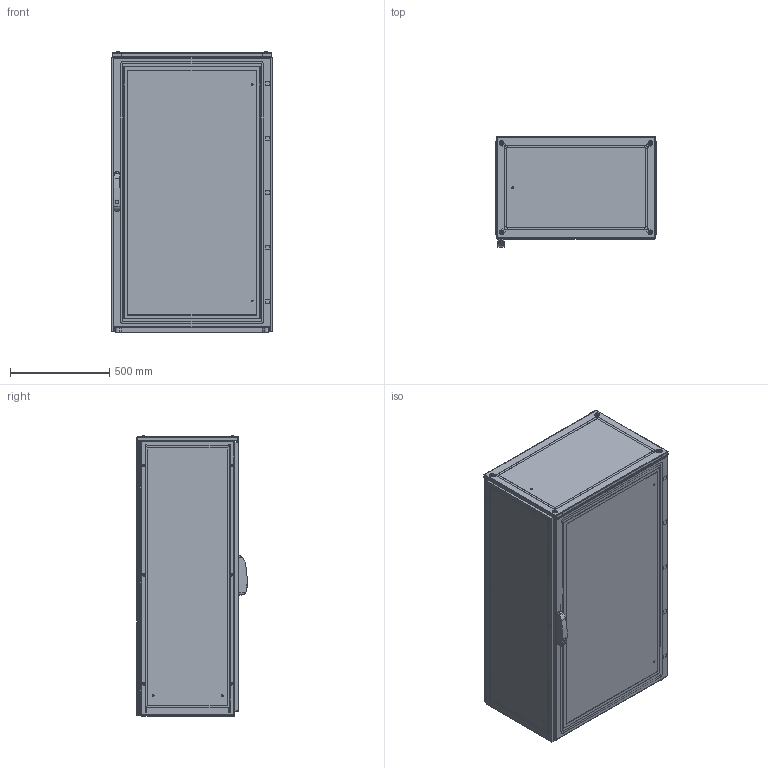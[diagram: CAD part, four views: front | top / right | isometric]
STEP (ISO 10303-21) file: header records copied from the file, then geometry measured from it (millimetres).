
FILE_DESCRIPTION(/* description */ ('STEP AP214'),/* implementation_level */ '2;1');
FILE_NAME(/* name */ 'ENUX081405PR-LOD350',/* time_stamp */ '2025-10-03T09:16:11+02:00',/* author */ ('License CC BY-ND 4.0'),/* organization */ ('CADENAS'),/* preprocessor_version */ 'ST-DEVELOPER v19.3',/* originating_system */ 'PARTsolutions',/* authorisation */ ' ');
FILE_SCHEMA (('AUTOMOTIVE_DESIGN {1 0 10303 214 3 1 1}'));
Length unit declared in the file: millimetre
Products named in the file (10): ENUX081405PR-LOD350; ENUX081405PR-LOD350_CON; ENUX081405PR-LOD350_floor1; ENUX081405PR-LOD350_floor2; Screw M12x30 architecture 350; ENUX081405PR-LOD350_side; ENUX081405PR-LOD350_top; ENUX081405PR-LOD350_back_door; ENUX081405PR-LOD350_door; ENUX081405PR-LOD350_handle
Assembly tree (15 placements, depth 2):
  ENUX081405PR-LOD350
    ENUX081405PR-LOD350_CON
    ENUX081405PR-LOD350_floor1  x2
    ENUX081405PR-LOD350_floor2  x2
    Screw M12x30 architecture 350  x4
    ENUX081405PR-LOD350_side  x2
    ENUX081405PR-LOD350_top
    ENUX081405PR-LOD350_back_door
    ENUX081405PR-LOD350_door
    ENUX081405PR-LOD350_handle
Bounding box: 812 x 557 x 1414.1 mm (x, y, z)
Volume: 17781522.7 mm3; surface area: 13392689.5 mm2
Topology: 15 solids, 15 shells, 1624 faces, 4541 edges, 2960 vertices
Faces by surface type: plane 816, cylinder 653, cone 71, torus 68, sphere 16
Full cylindrical faces by diameter (mm): 4.5 x108, 6 x14, 6.8 x8, 9 x9, 12 x16, 13 x4, 18 x1, 21 x4
Entity records: 43099 total; most frequent: CARTESIAN_POINT 7484, DIRECTION 7455, ORIENTED_EDGE 7008, EDGE_CURVE 3504, AXIS2_PLACEMENT_3D 2653, VERTEX_POINT 2441, LINE 2149, VECTOR 2149
